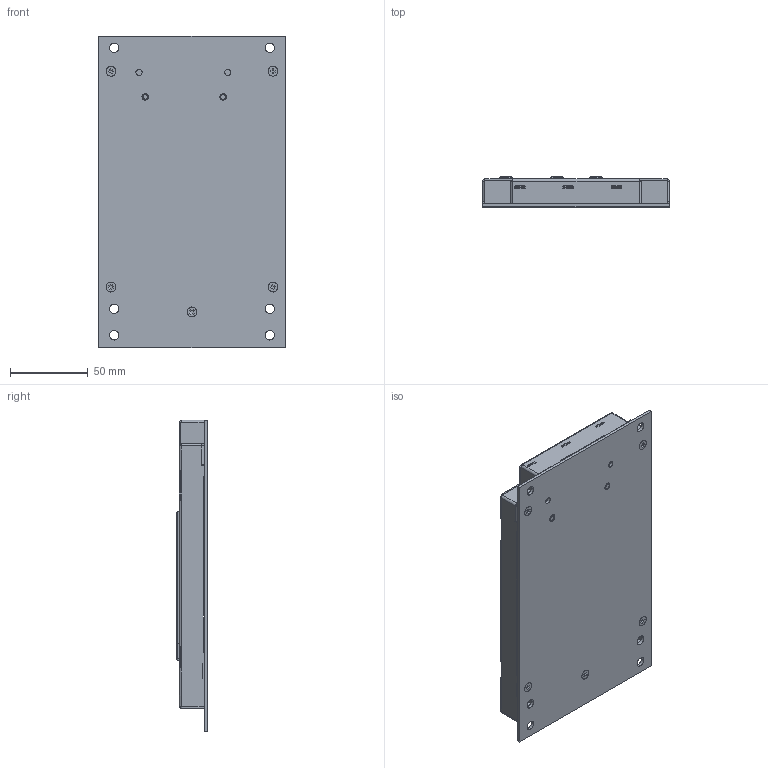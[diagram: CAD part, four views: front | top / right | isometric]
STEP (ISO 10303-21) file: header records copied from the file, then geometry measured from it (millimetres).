
FILE_DESCRIPTION (( 'STEP AP203' ), '1' );
FILE_NAME ('extern3d_09-402-011_MDM011_20100330.STEP', '2010-03-30T08:14:28', ( 'Anwender' ), ( 'SIGMATEK GMBH & CO KG' ), 'SwSTEP 2.0', 'SolidWorks 2009', '' );
FILE_SCHEMA (( 'CONFIG_CONTROL_DESIGN' ));
Products named in the file (1): extern3d_09-402-011_MDM011_20100330
Bounding box: 120 x 19.6 x 200 mm (x, y, z)
Volume: 151792.7 mm3; surface area: 196340.2 mm2
Topology: 38 solids, 38 shells, 1911 faces, 5008 edges, 3208 vertices
Faces by surface type: plane 1279, cylinder 434, cone 98, bspline 52, torus 48
Entity records: 61175 total; most frequent: CARTESIAN_POINT 13004, ORIENTED_EDGE 10008, DIRECTION 9816, EDGE_CURVE 5004, VECTOR 3692, LINE 3692, VERTEX_POINT 3208, AXIS2_PLACEMENT_3D 3062
